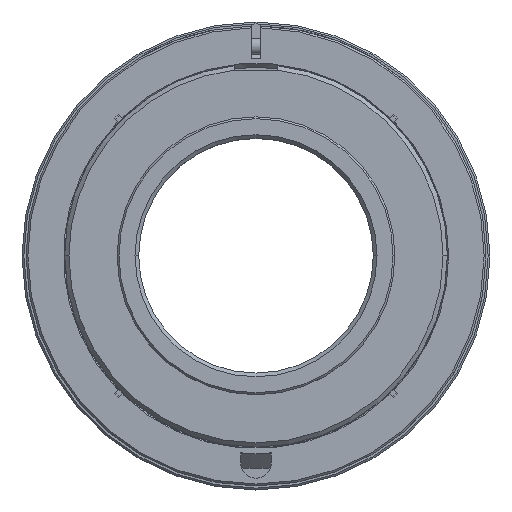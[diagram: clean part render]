
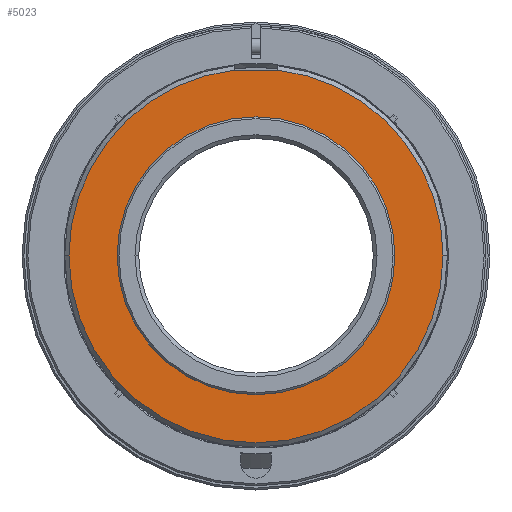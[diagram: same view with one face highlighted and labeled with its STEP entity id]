
A CAD part, top view. The second image highlights one B-rep face of the part: STEP entity #5023.
In plain terms, the highlighted planar face has unit normal (0, 0, 1).
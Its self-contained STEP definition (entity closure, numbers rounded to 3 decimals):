
#99 = CARTESIAN_POINT ( 'NONE',  ( 30.3, 0., -6. ) ) ;
#133 = DIRECTION ( 'NONE',  ( 0., -1., 0. ) ) ;
#237 = DIRECTION ( 'NONE',  ( 1., 0., 0. ) ) ;
#304 = CIRCLE ( 'NONE', #3538, 30.3 ) ;
#362 = EDGE_LOOP ( 'NONE', ( #1526, #1831 ) ) ;
#487 = VERTEX_POINT ( 'NONE', #2158 ) ;
#614 = DIRECTION ( 'NONE',  ( 0., 0., 1. ) ) ;
#637 = DIRECTION ( 'NONE',  ( 0., 0., -1. ) ) ;
#699 = VECTOR ( 'NONE', #133, 1000. ) ;
#833 = AXIS2_PLACEMENT_3D ( 'NONE', #4917, #1858, #7307 ) ;
#936 = VERTEX_POINT ( 'NONE', #3808 ) ;
#1064 = EDGE_CURVE ( 'NONE', #487, #936, #2097, .T. ) ;
#1247 = DIRECTION ( 'NONE',  ( -1., 0., 0. ) ) ;
#1373 = LINE ( 'NONE', #5763, #1808 ) ;
#1375 = VERTEX_POINT ( 'NONE', #6764 ) ;
#1476 = CIRCLE ( 'NONE', #2524, 30.3 ) ;
#1490 = CARTESIAN_POINT ( 'NONE',  ( 3.5, 30., -6. ) ) ;
#1518 = VERTEX_POINT ( 'NONE', #3252 ) ;
#1526 = ORIENTED_EDGE ( 'NONE', *, *, #1064, .F. ) ;
#1557 = CARTESIAN_POINT ( 'NONE',  ( 0., 0., -6. ) ) ;
#1806 = CARTESIAN_POINT ( 'NONE',  ( -3.5, 30.097, -6. ) ) ;
#1808 = VECTOR ( 'NONE', #237, 1000. ) ;
#1831 = ORIENTED_EDGE ( 'NONE', *, *, #4033, .F. ) ;
#1840 = CARTESIAN_POINT ( 'NONE',  ( 0., 0., -6. ) ) ;
#1858 = DIRECTION ( 'NONE',  ( 0., 0., 1. ) ) ;
#1934 = ORIENTED_EDGE ( 'NONE', *, *, #4523, .T. ) ;
#2018 = DIRECTION ( 'NONE',  ( 1., 0., 0. ) ) ;
#2067 = CARTESIAN_POINT ( 'NONE',  ( -3.5, 30.802, -6. ) ) ;
#2097 = CIRCLE ( 'NONE', #6263, 22.5 ) ;
#2158 = CARTESIAN_POINT ( 'NONE',  ( 22.5, 0., -6. ) ) ;
#2524 = AXIS2_PLACEMENT_3D ( 'NONE', #1840, #4902, #1247 ) ;
#2654 = CARTESIAN_POINT ( 'NONE',  ( 3.5, 30., -6. ) ) ;
#2747 = CIRCLE ( 'NONE', #3666, 22.5 ) ;
#2977 = ORIENTED_EDGE ( 'NONE', *, *, #5437, .T. ) ;
#3067 = VERTEX_POINT ( 'NONE', #99 ) ;
#3132 = DIRECTION ( 'NONE',  ( 0., 1., 0. ) ) ;
#3252 = CARTESIAN_POINT ( 'NONE',  ( -30.3, 0., -6. ) ) ;
#3439 = ORIENTED_EDGE ( 'NONE', *, *, #6237, .T. ) ;
#3463 = DIRECTION ( 'NONE',  ( 0., 0., 1. ) ) ;
#3487 = EDGE_CURVE ( 'NONE', #6682, #3626, #1373, .T. ) ;
#3538 = AXIS2_PLACEMENT_3D ( 'NONE', #5011, #614, #7916 ) ;
#3626 = VERTEX_POINT ( 'NONE', #1490 ) ;
#3666 = AXIS2_PLACEMENT_3D ( 'NONE', #5343, #3463, #7694 ) ;
#3722 = FACE_BOUND ( 'NONE', #362, .T. ) ;
#3808 = CARTESIAN_POINT ( 'NONE',  ( -22.5, 0., -6. ) ) ;
#4033 = EDGE_CURVE ( 'NONE', #936, #487, #2747, .T. ) ;
#4322 = EDGE_CURVE ( 'NONE', #7742, #6682, #5695, .T. ) ;
#4523 = EDGE_CURVE ( 'NONE', #3067, #1375, #304, .T. ) ;
#4738 = EDGE_LOOP ( 'NONE', ( #3439, #2977, #1934, #5171, #7865, #5836 ) ) ;
#4902 = DIRECTION ( 'NONE',  ( 0., 0., 1. ) ) ;
#4917 = CARTESIAN_POINT ( 'NONE',  ( 0., 0., -6. ) ) ;
#5011 = CARTESIAN_POINT ( 'NONE',  ( 0., 0., -6. ) ) ;
#5023 = ADVANCED_FACE ( 'NONE', ( #5477, #3722 ), #7375, .F. ) ;
#5171 = ORIENTED_EDGE ( 'NONE', *, *, #5536, .F. ) ;
#5343 = CARTESIAN_POINT ( 'NONE',  ( 0., 0., -6. ) ) ;
#5437 = EDGE_CURVE ( 'NONE', #1518, #3067, #1476, .T. ) ;
#5477 = FACE_OUTER_BOUND ( 'NONE', #4738, .T. ) ;
#5536 = EDGE_CURVE ( 'NONE', #3626, #1375, #7454, .T. ) ;
#5695 = LINE ( 'NONE', #2067, #699 ) ;
#5719 = DIRECTION ( 'NONE',  ( 0., 0., 1. ) ) ;
#5763 = CARTESIAN_POINT ( 'NONE',  ( -3.5, 30., -6. ) ) ;
#5836 = ORIENTED_EDGE ( 'NONE', *, *, #4322, .F. ) ;
#6048 = CARTESIAN_POINT ( 'NONE',  ( -3.5, 30., -6. ) ) ;
#6052 = DIRECTION ( 'NONE',  ( -1., 0., 0. ) ) ;
#6210 = CARTESIAN_POINT ( 'NONE',  ( 0., 22.5, -6. ) ) ;
#6237 = EDGE_CURVE ( 'NONE', #7742, #1518, #6288, .T. ) ;
#6263 = AXIS2_PLACEMENT_3D ( 'NONE', #1557, #5719, #2018 ) ;
#6288 = CIRCLE ( 'NONE', #833, 30.3 ) ;
#6682 = VERTEX_POINT ( 'NONE', #6048 ) ;
#6764 = CARTESIAN_POINT ( 'NONE',  ( 3.5, 30.097, -6. ) ) ;
#6929 = AXIS2_PLACEMENT_3D ( 'NONE', #6210, #637, #6052 ) ;
#7307 = DIRECTION ( 'NONE',  ( -1., 0., 0. ) ) ;
#7375 = PLANE ( 'NONE',  #6929 ) ;
#7454 = LINE ( 'NONE', #2654, #7719 ) ;
#7694 = DIRECTION ( 'NONE',  ( 1., 0., 0. ) ) ;
#7719 = VECTOR ( 'NONE', #3132, 1000. ) ;
#7742 = VERTEX_POINT ( 'NONE', #1806 ) ;
#7865 = ORIENTED_EDGE ( 'NONE', *, *, #3487, .F. ) ;
#7916 = DIRECTION ( 'NONE',  ( -1., 0., 0. ) ) ;
